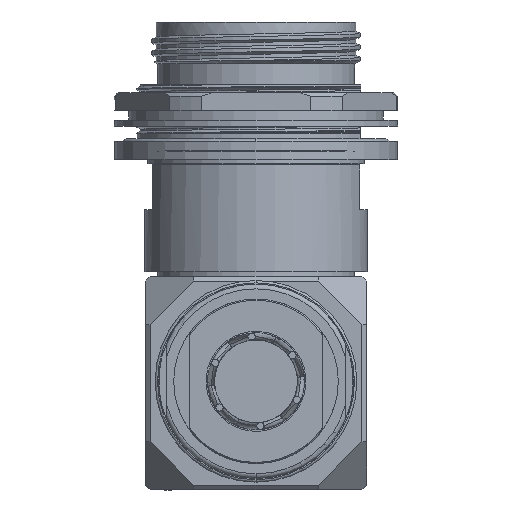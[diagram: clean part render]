
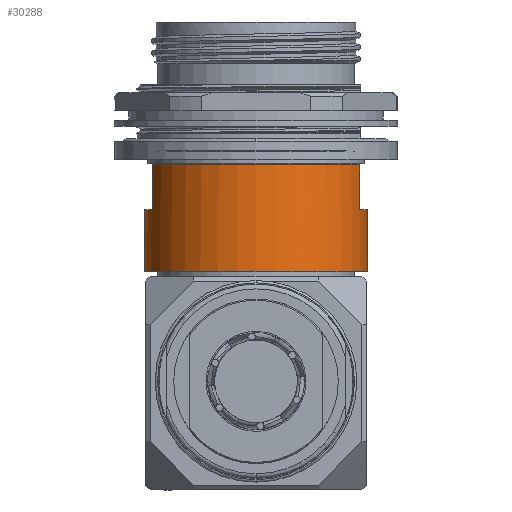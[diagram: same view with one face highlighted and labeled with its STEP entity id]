
A CAD part, front view. The second image highlights one B-rep face of the part: STEP entity #30288.
In plain terms, the highlighted cylindrical face has radius 23.622 mm (diameter 47.244 mm), a partial arc.
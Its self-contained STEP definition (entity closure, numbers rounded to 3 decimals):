
#74 = ORIENTED_EDGE ( 'NONE', *, *, #95930, .T. ) ;
#1544 = DIRECTION ( 'NONE',  ( 0., 0., -1. ) ) ;
#3427 = AXIS2_PLACEMENT_3D ( 'NONE', #126192, #115159, #96338 ) ;
#6151 = ORIENTED_EDGE ( 'NONE', *, *, #91326, .F. ) ;
#6806 = CARTESIAN_POINT ( 'NONE',  ( -23.622, 0., -53.01 ) ) ;
#9649 = CIRCLE ( 'NONE', #51039, 23.622 ) ;
#10439 = VECTOR ( 'NONE', #40503, 1000. ) ;
#16790 = EDGE_CURVE ( 'NONE', #25459, #103065, #9649, .T. ) ;
#17182 = ORIENTED_EDGE ( 'NONE', *, *, #115761, .F. ) ;
#19465 = CARTESIAN_POINT ( 'NONE',  ( 0., 0., -30.328 ) ) ;
#20605 = CARTESIAN_POINT ( 'NONE',  ( 0., 0., -39.853 ) ) ;
#21077 = CARTESIAN_POINT ( 'NONE',  ( -21.971, -8.676, -39.853 ) ) ;
#22175 = DIRECTION ( 'NONE',  ( 0., 0., -1. ) ) ;
#22380 = DIRECTION ( 'NONE',  ( 0., 0., -1. ) ) ;
#25459 = VERTEX_POINT ( 'NONE', #30611 ) ;
#30288 = ADVANCED_FACE ( 'NONE', ( #79771 ), #59675, .T. ) ;
#30611 = CARTESIAN_POINT ( 'NONE',  ( 21.971, -8.676, -39.853 ) ) ;
#32743 = CARTESIAN_POINT ( 'NONE',  ( 0., 0., -30.328 ) ) ;
#34428 = CIRCLE ( 'NONE', #3427, 23.622 ) ;
#38363 = DIRECTION ( 'NONE',  ( 1., 0., 0. ) ) ;
#40503 = DIRECTION ( 'NONE',  ( 0., 0., 1. ) ) ;
#40827 = DIRECTION ( 'NONE',  ( 0., 0., -1. ) ) ;
#40972 = VERTEX_POINT ( 'NONE', #21077 ) ;
#47197 = LINE ( 'NONE', #80084, #10439 ) ;
#48908 = ORIENTED_EDGE ( 'NONE', *, *, #104688, .F. ) ;
#51039 = AXIS2_PLACEMENT_3D ( 'NONE', #127926, #98079, #38363 ) ;
#51805 = VERTEX_POINT ( 'NONE', #6806 ) ;
#52113 = CIRCLE ( 'NONE', #106020, 23.622 ) ;
#52417 = EDGE_CURVE ( 'NONE', #103065, #84386, #58042, .T. ) ;
#56172 = VECTOR ( 'NONE', #1544, 1000. ) ;
#56720 = CARTESIAN_POINT ( 'NONE',  ( -23.622, 0., -39.853 ) ) ;
#58042 = LINE ( 'NONE', #100202, #56172 ) ;
#58902 = EDGE_CURVE ( 'NONE', #108815, #40972, #52113, .T. ) ;
#59675 = CYLINDRICAL_SURFACE ( 'NONE', #111503, 23.622 ) ;
#61965 = DIRECTION ( 'NONE',  ( 1., 0., 0. ) ) ;
#67860 = LINE ( 'NONE', #79509, #107286 ) ;
#68523 = CIRCLE ( 'NONE', #70628, 23.622 ) ;
#70200 = ORIENTED_EDGE ( 'NONE', *, *, #58902, .F. ) ;
#70543 = DIRECTION ( 'NONE',  ( 0., 0., 1. ) ) ;
#70628 = AXIS2_PLACEMENT_3D ( 'NONE', #32743, #22380, #61965 ) ;
#71480 = LINE ( 'NONE', #121456, #111370 ) ;
#74293 = ORIENTED_EDGE ( 'NONE', *, *, #52417, .F. ) ;
#79509 = CARTESIAN_POINT ( 'NONE',  ( -23.622, 0., -30.328 ) ) ;
#79771 = FACE_OUTER_BOUND ( 'NONE', #87261, .T. ) ;
#80084 = CARTESIAN_POINT ( 'NONE',  ( -21.971, -8.676, -30.328 ) ) ;
#80554 = ORIENTED_EDGE ( 'NONE', *, *, #16790, .F. ) ;
#84386 = VERTEX_POINT ( 'NONE', #105863 ) ;
#87261 = EDGE_LOOP ( 'NONE', ( #70200, #94426, #48908, #74293, #80554, #17182, #74, #6151 ) ) ;
#91326 = EDGE_CURVE ( 'NONE', #40972, #124101, #47197, .T. ) ;
#91727 = VERTEX_POINT ( 'NONE', #101180 ) ;
#94426 = ORIENTED_EDGE ( 'NONE', *, *, #111981, .T. ) ;
#95930 = EDGE_CURVE ( 'NONE', #91727, #124101, #68523, .T. ) ;
#96338 = DIRECTION ( 'NONE',  ( 1., 0., 0. ) ) ;
#98079 = DIRECTION ( 'NONE',  ( 0., 0., 1. ) ) ;
#99641 = DIRECTION ( 'NONE',  ( 0., 0., -1. ) ) ;
#99903 = DIRECTION ( 'NONE',  ( 1., 0., 0. ) ) ;
#100202 = CARTESIAN_POINT ( 'NONE',  ( 23.622, 0., -30.328 ) ) ;
#101180 = CARTESIAN_POINT ( 'NONE',  ( 21.971, -8.676, -30.328 ) ) ;
#103065 = VERTEX_POINT ( 'NONE', #123145 ) ;
#104688 = EDGE_CURVE ( 'NONE', #84386, #51805, #34428, .T. ) ;
#105863 = CARTESIAN_POINT ( 'NONE',  ( 23.622, 0., -53.01 ) ) ;
#106020 = AXIS2_PLACEMENT_3D ( 'NONE', #20605, #70543, #119244 ) ;
#107286 = VECTOR ( 'NONE', #99641, 1000. ) ;
#108815 = VERTEX_POINT ( 'NONE', #56720 ) ;
#111370 = VECTOR ( 'NONE', #22175, 1000. ) ;
#111503 = AXIS2_PLACEMENT_3D ( 'NONE', #19465, #40827, #99903 ) ;
#111981 = EDGE_CURVE ( 'NONE', #108815, #51805, #67860, .T. ) ;
#115159 = DIRECTION ( 'NONE',  ( 0., 0., -1. ) ) ;
#115761 = EDGE_CURVE ( 'NONE', #91727, #25459, #71480, .T. ) ;
#118949 = CARTESIAN_POINT ( 'NONE',  ( -21.971, -8.676, -30.328 ) ) ;
#119244 = DIRECTION ( 'NONE',  ( 0., 1., 0. ) ) ;
#121456 = CARTESIAN_POINT ( 'NONE',  ( 21.971, -8.676, -30.328 ) ) ;
#123145 = CARTESIAN_POINT ( 'NONE',  ( 23.622, 0., -39.853 ) ) ;
#124101 = VERTEX_POINT ( 'NONE', #118949 ) ;
#126192 = CARTESIAN_POINT ( 'NONE',  ( 0., 0., -53.01 ) ) ;
#127926 = CARTESIAN_POINT ( 'NONE',  ( 0., 0., -39.853 ) ) ;
